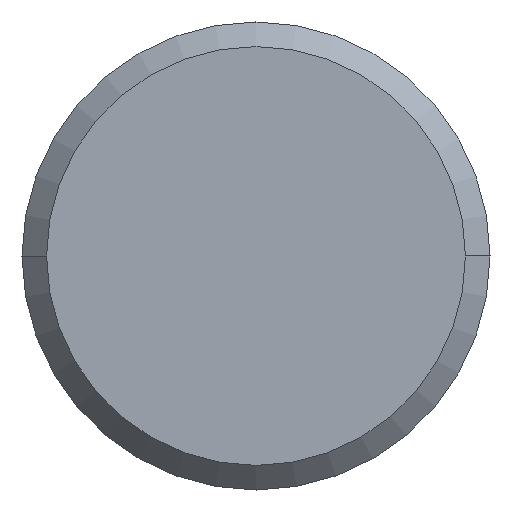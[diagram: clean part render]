
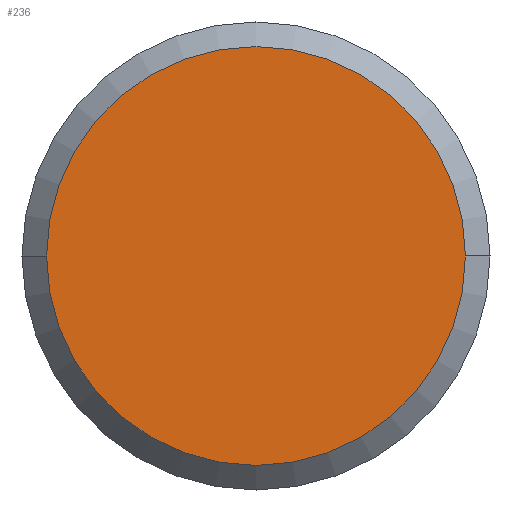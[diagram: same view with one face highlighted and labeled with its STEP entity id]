
A CAD part, left-side view. The second image highlights one B-rep face of the part: STEP entity #236.
In plain terms, the highlighted planar face has unit normal (-1, 0, 0).
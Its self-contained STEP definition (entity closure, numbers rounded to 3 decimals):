
#45 = CARTESIAN_POINT ( 'NONE',  ( -43.45, 0., 0. ) ) ;
#50 = DIRECTION ( 'NONE',  ( 0., 1., 0. ) ) ;
#51 = EDGE_CURVE ( 'NONE', #371, #433, #247, .T. ) ;
#64 = EDGE_CURVE ( 'NONE', #433, #371, #234, .T. ) ;
#114 = AXIS2_PLACEMENT_3D ( 'NONE', #431, #196, #460 ) ;
#163 = AXIS2_PLACEMENT_3D ( 'NONE', #240, #267, #50 ) ;
#196 = DIRECTION ( 'NONE',  ( 1., 0., 0. ) ) ;
#218 = DIRECTION ( 'NONE',  ( -1., 0., 0. ) ) ;
#219 = CARTESIAN_POINT ( 'NONE',  ( -43.45, -4.262, 0. ) ) ;
#228 = FACE_OUTER_BOUND ( 'NONE', #344, .T. ) ;
#234 = CIRCLE ( 'NONE', #163, 4.262 ) ;
#236 = ADVANCED_FACE ( 'NONE', ( #228 ), #340, .T. ) ;
#240 = CARTESIAN_POINT ( 'NONE',  ( -43.45, 0., 0. ) ) ;
#247 = CIRCLE ( 'NONE', #114, 4.262 ) ;
#267 = DIRECTION ( 'NONE',  ( 1., 0., 0. ) ) ;
#304 = ORIENTED_EDGE ( 'NONE', *, *, #51, .F. ) ;
#340 = PLANE ( 'NONE',  #436 ) ;
#344 = EDGE_LOOP ( 'NONE', ( #304, #424 ) ) ;
#371 = VERTEX_POINT ( 'NONE', #374 ) ;
#374 = CARTESIAN_POINT ( 'NONE',  ( -43.45, 4.262, 0. ) ) ;
#383 = DIRECTION ( 'NONE',  ( 0., -1., 0. ) ) ;
#424 = ORIENTED_EDGE ( 'NONE', *, *, #64, .F. ) ;
#431 = CARTESIAN_POINT ( 'NONE',  ( -43.45, 0., 0. ) ) ;
#433 = VERTEX_POINT ( 'NONE', #219 ) ;
#436 = AXIS2_PLACEMENT_3D ( 'NONE', #45, #218, #383 ) ;
#460 = DIRECTION ( 'NONE',  ( 0., 1., 0. ) ) ;
